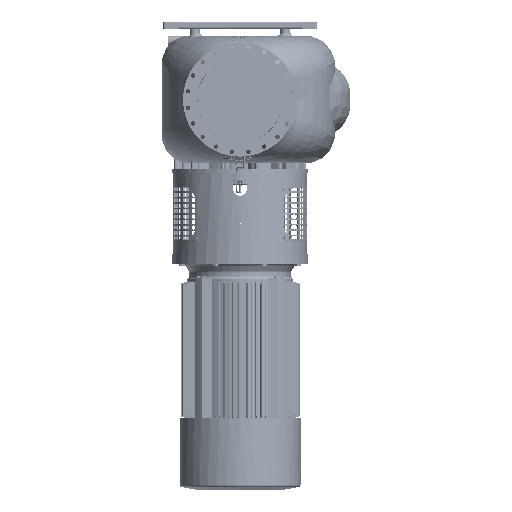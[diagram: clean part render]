
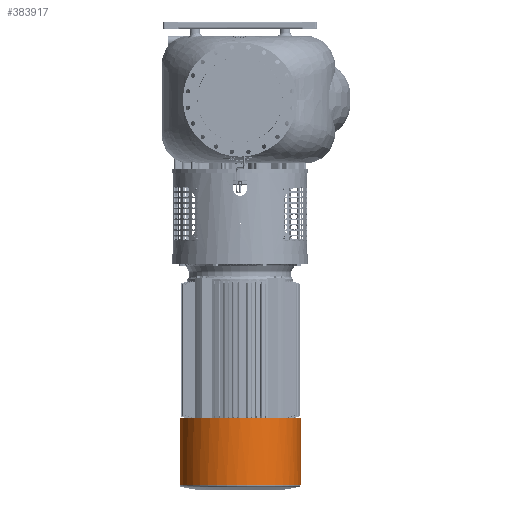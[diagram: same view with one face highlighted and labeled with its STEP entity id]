
A CAD part, left-side view. The second image highlights one B-rep face of the part: STEP entity #383917.
In plain terms, the highlighted cylindrical face has radius 355 mm (diameter 710 mm), a partial arc.
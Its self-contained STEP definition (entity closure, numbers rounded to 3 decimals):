
#378722=CARTESIAN_POINT('',(0.,396.,0.));
#378723=DIRECTION('',(0.,1.,0.));
#378724=DIRECTION('',(0.,0.,-1.));
#378725=AXIS2_PLACEMENT_3D('',#378722,#378723,#378724);
#378742=DIRECTION('',(0.,1.,0.));
#378743=VECTOR('',#378742,394.675);
#378744=CARTESIAN_POINT('',(0.,396.,-355.));
#378745=LINE('',#378744,#378743);
#378746=DIRECTION('',(0.,-1.,0.));
#378747=VECTOR('',#378746,394.675);
#378748=CARTESIAN_POINT('',(0.,790.675,
355.));
#378749=LINE('',#378748,#378747);
#378755=CARTESIAN_POINT('',(0.,790.675,
0.));
#378756=DIRECTION('',(0.,-1.,0.));
#378757=DIRECTION('',(0.,0.,1.));
#378758=AXIS2_PLACEMENT_3D('',#378755,#378756,#378757);
#378790=CARTESIAN_POINT('',(0.,790.675,
0.));
#378791=DIRECTION('',(0.,-1.,0.));
#378792=DIRECTION('',(-0.707,0.,-0.707));
#378793=AXIS2_PLACEMENT_3D('',#378790,#378791,#378792);
#382339=CARTESIAN_POINT('',(0.,396.,-355.));
#382340=CARTESIAN_POINT('',(0.,396.,355.));
#382341=VERTEX_POINT('',#382339);
#382342=VERTEX_POINT('',#382340);
#382343=CARTESIAN_POINT('',(0.,790.675,
-355.));
#382344=VERTEX_POINT('',#382343);
#382345=CARTESIAN_POINT('',(-251.023,790.675,
-251.023));
#382346=VERTEX_POINT('',#382345);
#382347=CARTESIAN_POINT('',(0.,790.675,
355.));
#382348=VERTEX_POINT('',#382347);
#383901=CARTESIAN_POINT('',(0.,388.107,
0.));
#383902=DIRECTION('',(0.,1.,0.));
#383903=DIRECTION('',(0.,0.,-1.));
#383904=AXIS2_PLACEMENT_3D('',#383901,#383902,#383903);
#383905=CYLINDRICAL_SURFACE('',#383904,355.);
#383906=ORIENTED_EDGE('',*,*,#383890,.F.);
#383908=ORIENTED_EDGE('',*,*,#383907,.T.);
#383910=ORIENTED_EDGE('',*,*,#383909,.F.);
#383912=ORIENTED_EDGE('',*,*,#383911,.F.);
#383914=ORIENTED_EDGE('',*,*,#383913,.T.);
#383915=EDGE_LOOP('',(#383906,#383908,#383910,#383912,#383914));
#383916=FACE_OUTER_BOUND('',#383915,.F.);
#383917=ADVANCED_FACE('',(#383916),#383905,.T.);
#378726=CIRCLE('',#378725,355.);
#378759=CIRCLE('',#378758,355.);
#378794=CIRCLE('',#378793,355.);
#383890=EDGE_CURVE('',#382341,#382342,#378726,.T.);
#383907=EDGE_CURVE('',#382341,#382344,#378745,.T.);
#383909=EDGE_CURVE('',#382346,#382344,#378794,.T.);
#383911=EDGE_CURVE('',#382348,#382346,#378759,.T.);
#383913=EDGE_CURVE('',#382348,#382342,#378749,.T.);
